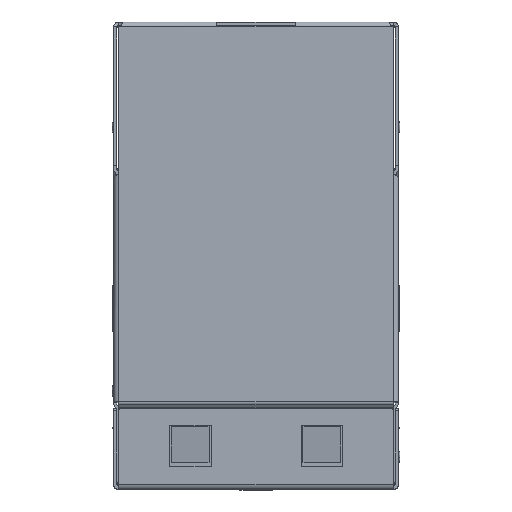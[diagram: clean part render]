
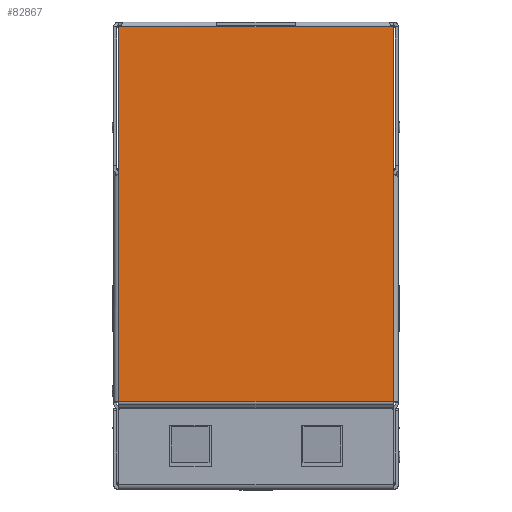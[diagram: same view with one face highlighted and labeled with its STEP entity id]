
A CAD part, top view. The second image highlights one B-rep face of the part: STEP entity #82867.
In plain terms, the highlighted planar face has unit normal (0, 0, 1).
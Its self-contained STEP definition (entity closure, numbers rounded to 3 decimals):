
#2183=DIRECTION('',(1.,0.,0.));
#2184=VECTOR('',#2183,5.955);
#2185=CARTESIAN_POINT('',(-43.26,27.825,0.25));
#2186=LINE('',#2185,#2184);
#27644=DIRECTION('',(0.,1.,0.));
#27645=VECTOR('',#27644,13.84);
#27646=CARTESIAN_POINT('',(-43.26,5.085,0.25));
#27647=LINE('',#27646,#27645);
#27648=DIRECTION('',(0.,-1.,0.));
#27649=VECTOR('',#27648,8.9);
#27650=CARTESIAN_POINT('',(-26.59,27.825,0.25));
#27651=LINE('',#27650,#27649);
#27652=DIRECTION('',(0.,-1.,0.));
#27653=VECTOR('',#27652,13.84);
#27654=CARTESIAN_POINT('',(-26.59,18.925,
0.25));
#27655=LINE('',#27654,#27653);
#27660=DIRECTION('',(-1.,0.,0.));
#27661=VECTOR('',#27660,16.67);
#27662=CARTESIAN_POINT('',(-26.59,5.085,0.25));
#27663=LINE('',#27662,#27661);
#27664=DIRECTION('',(0.,1.,0.));
#27665=VECTOR('',#27664,8.9);
#27666=CARTESIAN_POINT('',(-43.26,18.925,0.25));
#27667=LINE('',#27666,#27665);
#27684=DIRECTION('',(-1.,0.,0.));
#27685=VECTOR('',#27684,4.76);
#27686=CARTESIAN_POINT('',(-32.545,27.825,0.25));
#27687=LINE('',#27686,#27685);
#27990=DIRECTION('',(1.,0.,0.));
#27991=VECTOR('',#27990,5.955);
#27992=CARTESIAN_POINT('',(-32.545,27.825,0.25));
#27993=LINE('',#27992,#27991);
#37496=CARTESIAN_POINT('',(-43.26,5.085,0.25));
#37497=VERTEX_POINT('',#37496);
#37540=CARTESIAN_POINT('',(-26.59,5.085,0.25));
#37541=VERTEX_POINT('',#37540);
#37926=CARTESIAN_POINT('',(-26.59,18.925,
0.25));
#37927=VERTEX_POINT('',#37926);
#37943=CARTESIAN_POINT('',(-26.59,27.825,0.25));
#37945=VERTEX_POINT('',#37943);
#38133=CARTESIAN_POINT('',(-43.26,27.825,0.25));
#38134=VERTEX_POINT('',#38133);
#38135=CARTESIAN_POINT('',(-37.305,27.825,0.25));
#38136=VERTEX_POINT('',#38135);
#38907=CARTESIAN_POINT('',(-32.545,27.825,0.25));
#38908=VERTEX_POINT('',#38907);
#38949=CARTESIAN_POINT('',(-43.26,18.925,0.25));
#38950=VERTEX_POINT('',#38949);
#82848=CARTESIAN_POINT('',(-34.925,16.455,0.25));
#82849=DIRECTION('',(0.,0.,1.));
#82850=DIRECTION('',(0.,1.,0.));
#82851=AXIS2_PLACEMENT_3D('',#82848,#82849,#82850);
#82852=PLANE('',#82851);
#82853=ORIENTED_EDGE('',*,*,#47731,.T.);
#82854=ORIENTED_EDGE('',*,*,#49252,.T.);
#82856=ORIENTED_EDGE('',*,*,#82855,.T.);
#82857=ORIENTED_EDGE('',*,*,#82842,.T.);
#82859=ORIENTED_EDGE('',*,*,#82858,.T.);
#82860=ORIENTED_EDGE('',*,*,#48319,.T.);
#82862=ORIENTED_EDGE('',*,*,#82861,.F.);
#82864=ORIENTED_EDGE('',*,*,#82863,.T.);
#82865=EDGE_LOOP('',(#82853,#82854,#82856,#82857,#82859,#82860,#82862,#82864));
#82866=FACE_OUTER_BOUND('',#82865,.F.);
#82867=ADVANCED_FACE('',(#82866),#82852,.T.);
#47731=EDGE_CURVE('',#37945,#37927,#27651,.T.);
#48319=EDGE_CURVE('',#38134,#38136,#2186,.T.);
#49252=EDGE_CURVE('',#37927,#37541,#27655,.T.);
#82842=EDGE_CURVE('',#37497,#38950,#27647,.T.);
#82855=EDGE_CURVE('',#37541,#37497,#27663,.T.);
#82858=EDGE_CURVE('',#38950,#38134,#27667,.T.);
#82861=EDGE_CURVE('',#38908,#38136,#27687,.T.);
#82863=EDGE_CURVE('',#38908,#37945,#27993,.T.);
